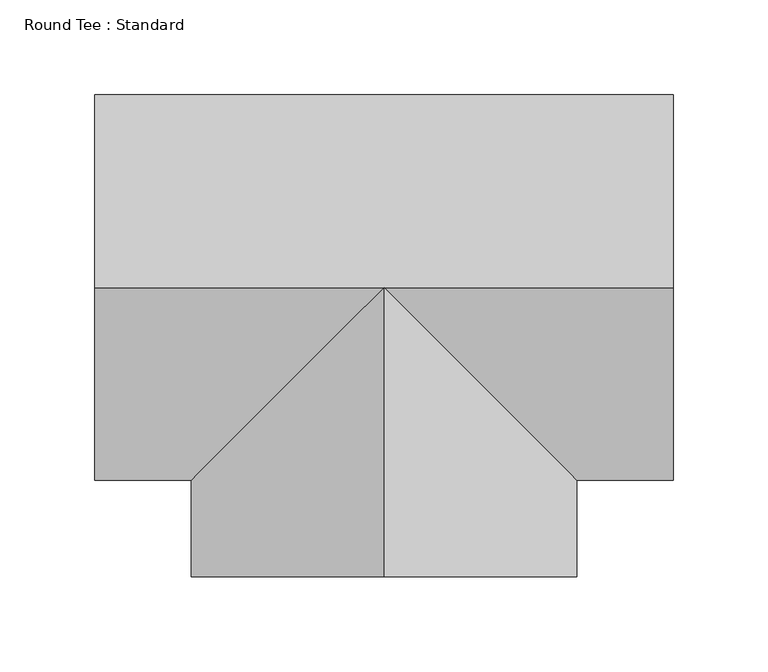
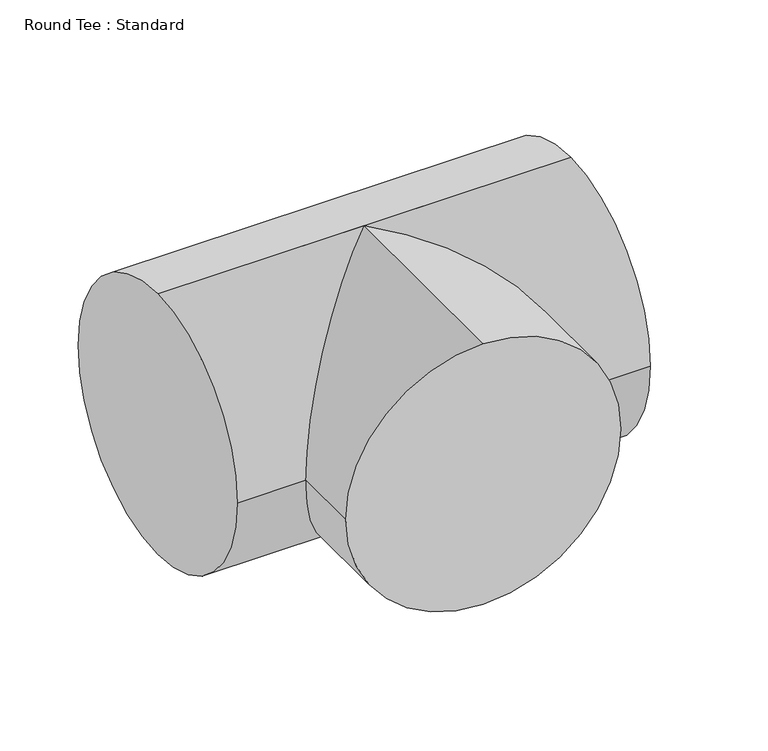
"""IFC4 building model written with IfcOpenShell, lengths in millimetres: duct fitting geometry, Round Tee : Standard."""

from ifc_helpers import new_model, si_unit, frame, origin, place, context, project, spatial, circle_curve, ellipse_curve, source, transform, mapped, element, save
from ifc_brep_helpers import plane_surface, cylinder_surface, advanced_brep


def round_tee_standard_4a79b710(model_context):
    return source(origin(), model_context, "Body", "AdvancedBrep", [
        advanced_brep(
        [(0.0, -152.4, 101.6), (-101.6, -152.4, 0.0), (0.0, -152.4, -101.6), (101.6, -152.4, 0.0), (101.6, -101.6, 0.0), (0.0, 0.0, 101.6), (0.0, 0.0, -101.6), (-101.6, -101.6, 0.0), (-152.4, 0.0, 101.6), (-152.4, 101.6, 0.0), (-152.4, 0.0, -101.6), (-152.4, -101.6, 0.0), (152.4, 0.0, 101.6), (152.4, -101.6, 0.0), (152.4, 0.0, -101.6), (152.4, 101.6, 0.0)],
        [
            (0, 1, circle_curve(frame((0.0, -152.4, 0.0), z_axis=(0.0, -1.0, 0.0), x_axis=(1.0, 0.0, 0.0)), 101.6)),
            (1, 2, circle_curve(frame((0.0, -152.4, 0.0), z_axis=(0.0, -1.0, 0.0), x_axis=(1.0, 0.0, 0.0)), 101.6)),
            (2, 3, circle_curve(frame((0.0, -152.4, 0.0), z_axis=(0.0, -1.0, 0.0), x_axis=(1.0, 0.0, 0.0)), 101.6)),
            (3, 0, circle_curve(frame((0.0, -152.4, 0.0), z_axis=(0.0, -1.0, 0.0), x_axis=(1.0, 0.0, 0.0)), 101.6)),
            (3, 4),
            (4, 5, ellipse_curve(frame((0.0, 0.0, 0.0), z_axis=(-0.7071067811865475, -0.7071067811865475, 0.0), x_axis=(-0.7071067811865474, 0.7071067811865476, 0.0)), 143.6840979, 101.6)),
            (5, 0),
            (2, 6),
            (6, 4, ellipse_curve(frame((0.0, 0.0, 0.0), z_axis=(-0.7071067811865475, -0.7071067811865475, 0.0), x_axis=(-0.7071067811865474, 0.7071067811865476, 0.0)), 143.6840979, 101.6)),
            (1, 7),
            (7, 6, ellipse_curve(frame((0.0, 0.0, 0.0), z_axis=(0.7071067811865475, -0.7071067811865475, 0.0), x_axis=(0.7071067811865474, 0.7071067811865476, 0.0)), 143.6840979, 101.6)),
            (5, 7, ellipse_curve(frame((0.0, 0.0, 0.0), z_axis=(0.7071067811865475, -0.7071067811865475, 0.0), x_axis=(0.7071067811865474, 0.7071067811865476, 0.0)), 143.6840979, 101.6)),
            (8, 9, circle_curve(frame((-152.4, 0.0, 0.0), z_axis=(-1.0, 0.0, 0.0), x_axis=(0.0, 1.0, 0.0)), 101.6)),
            (9, 10, circle_curve(frame((-152.4, 0.0, 0.0), z_axis=(-1.0, 0.0, 0.0), x_axis=(0.0, 1.0, 0.0)), 101.6)),
            (10, 11, circle_curve(frame((-152.4, 0.0, 0.0), z_axis=(-1.0, 0.0, 0.0), x_axis=(0.0, 1.0, 0.0)), 101.6)),
            (11, 8, circle_curve(frame((-152.4, 0.0, 0.0), z_axis=(-1.0, 0.0, 0.0), x_axis=(0.0, 1.0, 0.0)), 101.6)),
            (12, 13, circle_curve(frame((152.4, 0.0, 0.0), z_axis=(1.0, 0.0, 0.0), x_axis=(0.0, 1.0, 0.0)), 101.6)),
            (13, 14, circle_curve(frame((152.4, 0.0, 0.0), z_axis=(1.0, 0.0, 0.0), x_axis=(0.0, 1.0, 0.0)), 101.6)),
            (14, 15, circle_curve(frame((152.4, 0.0, 0.0), z_axis=(1.0, 0.0, 0.0), x_axis=(0.0, 1.0, 0.0)), 101.6)),
            (15, 12, circle_curve(frame((152.4, 0.0, 0.0), z_axis=(1.0, 0.0, 0.0), x_axis=(0.0, 1.0, 0.0)), 101.6)),
            (8, 5),
            (5, 12),
            (15, 9),
            (14, 6),
            (6, 10),
            (7, 11),
            (13, 4),
        ],
        [
            plane_surface(frame((0.0, -152.4, 0.0), z_axis=(0.0, -1.0, 0.0), x_axis=(0.0, 0.0, 1.0))),
            cylinder_surface(frame((0.0, 0.0, 0.0), z_axis=(0.0, 1.0, 0.0), x_axis=(1.0, 0.0, 0.0)), 101.6),
            plane_surface(frame((-152.4, 0.0, 0.0), z_axis=(-1.0, 0.0, 0.0), x_axis=(0.0, 0.0, 1.0))),
            plane_surface(frame((152.4, 0.0, 0.0), z_axis=(1.0, 0.0, 0.0), x_axis=(0.0, 0.0, 1.0))),
            cylinder_surface(frame((-152.4, 0.0, 0.0), z_axis=(-1.0, 0.0, 0.0), x_axis=(0.0, 1.0, 0.0)), 101.6),
        ],
        [
            (0, [[1, 2, 3, 4]]),
            (1, [[-4, 5, 6, 7]]),
            (1, [[-3, 8, 9, -5]]),
            (1, [[-2, 10, 11, -8]]),
            (1, [[-1, -7, 12, -10]]),
            (2, [[13, 14, 15, 16]]),
            (3, [[17, 18, 19, 20]]),
            (4, [[-13, 21, 22, -20, 23]]),
            (4, [[-14, -23, -19, 24, 25]]),
            (4, [[-15, -25, -11, 26]]),
            (4, [[-18, 27, -9, -24]]),
            (4, [[-16, -26, -12, -21]]),
            (4, [[-17, -22, -6, -27]]),
        ],
    ),
    ])


if __name__ == "__main__":
    model = new_model("IFC4")
    model_context = context("Model", 3, world=origin())
    ifc_project = project(units=[si_unit("LENGTHUNIT", "METRE", prefix="MILLI")], contexts=[model_context])
    site = spatial("IfcSite", under=ifc_project)
    building = spatial("IfcBuilding", under=site)
    placement = place(None, origin())
    round_tee_standard_shape = round_tee_standard_4a79b710(model_context)
    element("IfcDuctFitting", 1, ObjectType="Round Tee : Standard", at=placement, inside=building, context=model_context, shape_type="MappedRepresentation", body=[
        mapped(round_tee_standard_shape, transform((0.0, 0.0, 0.0), x_axis=(1.0, 0.0, 0.0), y_axis=(0.0, 1.0, 0.0), z_axis=(0.0, 0.0, 1.0))),
    ])
    save(model, "model.ifc")
